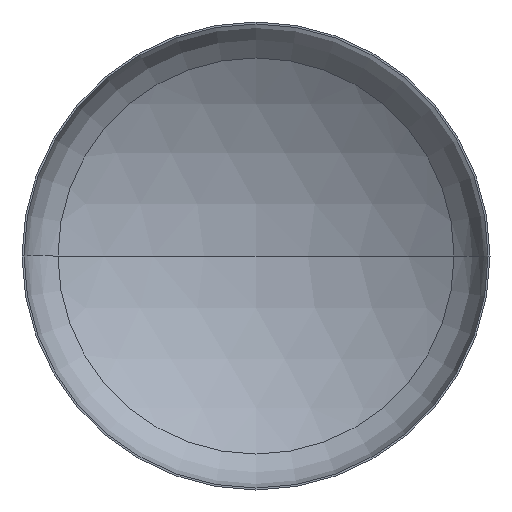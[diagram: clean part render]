
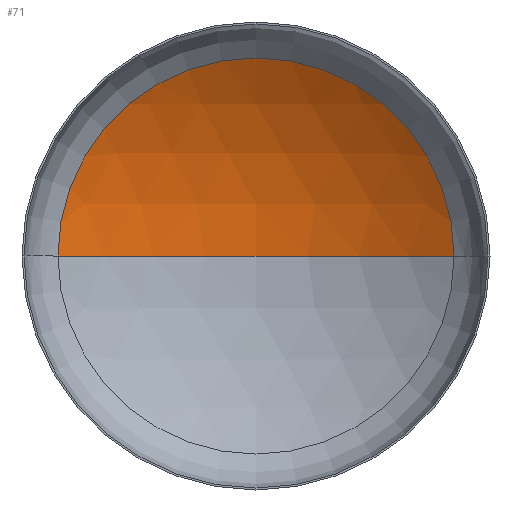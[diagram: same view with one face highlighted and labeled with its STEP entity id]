
A CAD part, front view. The second image highlights one B-rep face of the part: STEP entity #71.
In plain terms, the highlighted spherical face has radius 960 mm.
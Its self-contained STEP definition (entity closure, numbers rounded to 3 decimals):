
#1 = CARTESIAN_POINT ( 'NONE',  ( 507.871, 176.991, 0. ) ) ;
#10 = AXIS2_PLACEMENT_3D ( 'NONE', #268, #357, #402 ) ;
#21 = AXIS2_PLACEMENT_3D ( 'NONE', #383, #246, #407 ) ;
#35 = ORIENTED_EDGE ( 'NONE', *, *, #350, .F. ) ;
#39 = VERTEX_POINT ( 'NONE', #376 ) ;
#42 = VERTEX_POINT ( 'NONE', #1 ) ;
#70 = CIRCLE ( 'NONE', #21, 507.871 ) ;
#71 = ADVANCED_FACE ( 'NONE', ( #168 ), #372, .F. ) ;
#73 = AXIS2_PLACEMENT_3D ( 'NONE', #206, #277, #308 ) ;
#89 = EDGE_LOOP ( 'NONE', ( #35, #227, #217 ) ) ;
#102 = DIRECTION ( 'NONE',  ( -1., 0., 0. ) ) ;
#160 = CIRCLE ( 'NONE', #355, 960. ) ;
#168 = FACE_OUTER_BOUND ( 'NONE', #89, .T. ) ;
#206 = CARTESIAN_POINT ( 'NONE',  ( 0., -637.666, 0. ) ) ;
#217 = ORIENTED_EDGE ( 'NONE', *, *, #333, .T. ) ;
#227 = ORIENTED_EDGE ( 'NONE', *, *, #368, .T. ) ;
#246 = DIRECTION ( 'NONE',  ( 0., -1., 0. ) ) ;
#268 = CARTESIAN_POINT ( 'NONE',  ( 0., -637.666, 0. ) ) ;
#277 = DIRECTION ( 'NONE',  ( 0., 0., -1. ) ) ;
#295 = DIRECTION ( 'NONE',  ( 0., 0., -1. ) ) ;
#308 = DIRECTION ( 'NONE',  ( -1., 0., 0. ) ) ;
#320 = VERTEX_POINT ( 'NONE', #403 ) ;
#333 = EDGE_CURVE ( 'NONE', #42, #320, #70, .T. ) ;
#350 = EDGE_CURVE ( 'NONE', #39, #320, #373, .T. ) ;
#355 = AXIS2_PLACEMENT_3D ( 'NONE', #365, #295, #102 ) ;
#357 = DIRECTION ( 'NONE',  ( 0., 0., 1. ) ) ;
#365 = CARTESIAN_POINT ( 'NONE',  ( 0., -637.666, 0. ) ) ;
#368 = EDGE_CURVE ( 'NONE', #39, #42, #160, .T. ) ;
#372 = SPHERICAL_SURFACE ( 'NONE', #73, 960. ) ;
#373 = CIRCLE ( 'NONE', #10, 960. ) ;
#376 = CARTESIAN_POINT ( 'NONE',  ( 0., 322.334, 0. ) ) ;
#383 = CARTESIAN_POINT ( 'NONE',  ( 0., 176.991, 0. ) ) ;
#402 = DIRECTION ( 'NONE',  ( 1., 0., 0. ) ) ;
#403 = CARTESIAN_POINT ( 'NONE',  ( -507.871, 176.991, 0. ) ) ;
#407 = DIRECTION ( 'NONE',  ( 1., 0., 0. ) ) ;
